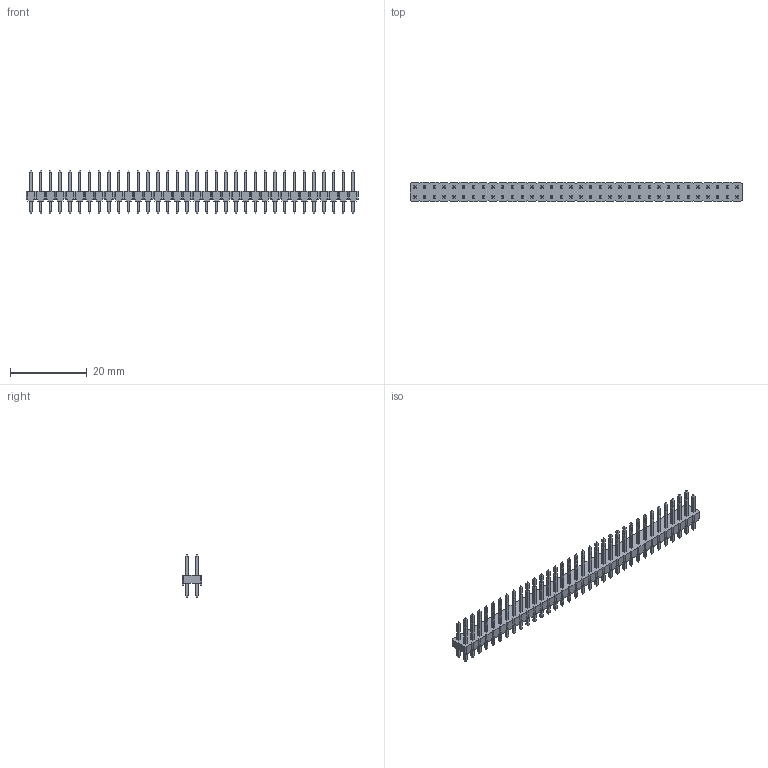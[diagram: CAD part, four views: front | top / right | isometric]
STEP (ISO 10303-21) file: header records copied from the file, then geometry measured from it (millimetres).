
FILE_DESCRIPTION(/* description */ (''),/* implementation_level */ '2;1');
FILE_NAME(/* name */ '961268-6404-XX',/* time_stamp */ '2007-06-18T13:25:58+02:00',/* author */ (''),/* organization */ (''),/* preprocessor_version */ 'ST-DEVELOPER v9',/* originating_system */ 'UGS - NX 4.0',/* authorisation */ '');
FILE_SCHEMA (('AUTOMOTIVE_DESIGN { 1 0 10303 214 1 1 1 1 }'));
Length unit declared in the file: millimetre
Products named in the file (1): 961268-6404-XX
Bounding box: 86.36 x 5 x 11.3 mm (x, y, z)
Volume: 1117.5 mm3; surface area: 2865.3 mm2
Topology: 1 solids, 1 shells, 1774 faces, 4364 edges, 2728 vertices
Faces by surface type: plane 1774
Entity records: 50500 total; most frequent: CARTESIAN_POINT 8867, ORIENTED_EDGE 8728, DIRECTION 7914, EDGE_CURVE 4364, LINE 4364, VECTOR 4364, VERTEX_POINT 2728, EDGE_LOOP 1910
